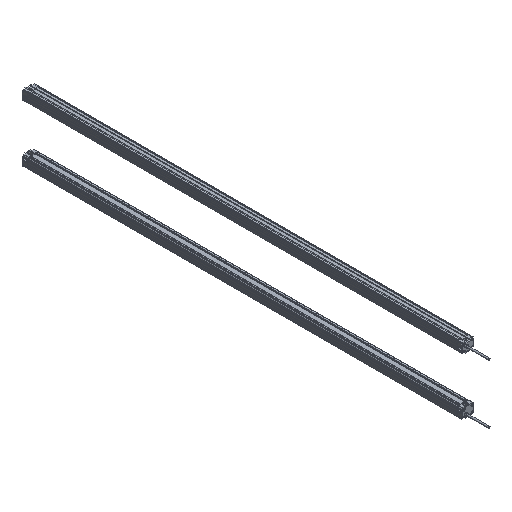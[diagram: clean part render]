
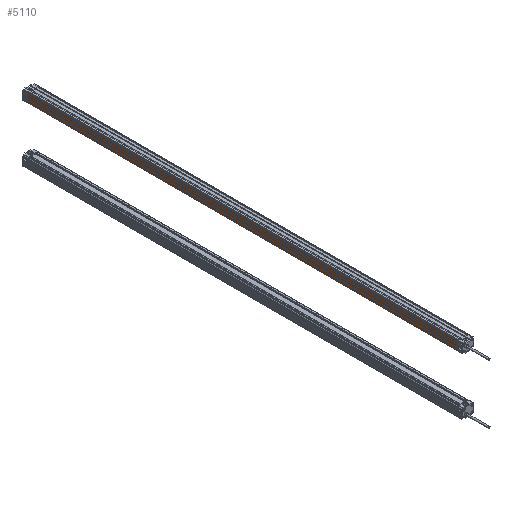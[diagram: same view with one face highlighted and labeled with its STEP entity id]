
A CAD part, isometric view. The second image highlights one B-rep face of the part: STEP entity #5110.
In plain terms, the highlighted planar face has unit normal (-1, 0, 0) as drawn and (1, 0, 0) by its records, which use the part's own axes.
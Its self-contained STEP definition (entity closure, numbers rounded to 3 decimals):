
#819 = PLANE ( 'NONE',  #8527 ) ;
#1671 = ORIENTED_EDGE ( 'NONE', *, *, #8601, .T. ) ;
#2103 = VECTOR ( 'NONE', #3905, 1000. ) ;
#2263 = VERTEX_POINT ( 'NONE', #7318 ) ;
#2322 = CARTESIAN_POINT ( 'NONE',  ( 12.5, 0., -9.2 ) ) ;
#2570 = CARTESIAN_POINT ( 'NONE',  ( 12.5, -920., 8.293 ) ) ;
#2675 = DIRECTION ( 'NONE',  ( 1., 0., 0. ) ) ;
#2918 = CARTESIAN_POINT ( 'NONE',  ( 12.5, 0., 8.293 ) ) ;
#2950 = VERTEX_POINT ( 'NONE', #5704 ) ;
#3114 = EDGE_CURVE ( 'NONE', #2950, #4031, #10668, .T. ) ;
#3707 = ORIENTED_EDGE ( 'NONE', *, *, #3715, .F. ) ;
#3715 = EDGE_CURVE ( 'NONE', #7810, #4031, #4188, .T. ) ;
#3905 = DIRECTION ( 'NONE',  ( 0., 1., 0. ) ) ;
#4031 = VERTEX_POINT ( 'NONE', #2322 ) ;
#4188 = LINE ( 'NONE', #2918, #4855 ) ;
#4430 = VECTOR ( 'NONE', #10487, 1000. ) ;
#4826 = ORIENTED_EDGE ( 'NONE', *, *, #3114, .T. ) ;
#4855 = VECTOR ( 'NONE', #10452, 1000. ) ;
#5110 = ADVANCED_FACE ( 'NONE', ( #10902 ), #819, .T. ) ;
#5350 = EDGE_CURVE ( 'NONE', #2263, #7810, #9858, .T. ) ;
#5461 = EDGE_LOOP ( 'NONE', ( #3707, #9748, #1671, #4826 ) ) ;
#5704 = CARTESIAN_POINT ( 'NONE',  ( 12.5, -920., -9.2 ) ) ;
#7219 = CARTESIAN_POINT ( 'NONE',  ( 12.5, -920., -9.2 ) ) ;
#7318 = CARTESIAN_POINT ( 'NONE',  ( 12.5, -920., 8.293 ) ) ;
#7810 = VERTEX_POINT ( 'NONE', #9067 ) ;
#7948 = CARTESIAN_POINT ( 'NONE',  ( 12.5, -920., 8.293 ) ) ;
#8527 = AXIS2_PLACEMENT_3D ( 'NONE', #2570, #2675, #9289 ) ;
#8601 = EDGE_CURVE ( 'NONE', #2263, #2950, #10599, .T. ) ;
#8668 = DIRECTION ( 'NONE',  ( 0., 0., -1. ) ) ;
#9067 = CARTESIAN_POINT ( 'NONE',  ( 12.5, 0., 8.293 ) ) ;
#9289 = DIRECTION ( 'NONE',  ( 0., 0., -1. ) ) ;
#9748 = ORIENTED_EDGE ( 'NONE', *, *, #5350, .F. ) ;
#9858 = LINE ( 'NONE', #7948, #4430 ) ;
#10452 = DIRECTION ( 'NONE',  ( 0., 0., -1. ) ) ;
#10487 = DIRECTION ( 'NONE',  ( 0., 1., 0. ) ) ;
#10599 = LINE ( 'NONE', #10904, #10867 ) ;
#10668 = LINE ( 'NONE', #7219, #2103 ) ;
#10867 = VECTOR ( 'NONE', #8668, 1000. ) ;
#10902 = FACE_OUTER_BOUND ( 'NONE', #5461, .T. ) ;
#10904 = CARTESIAN_POINT ( 'NONE',  ( 12.5, -920., 8.293 ) ) ;
